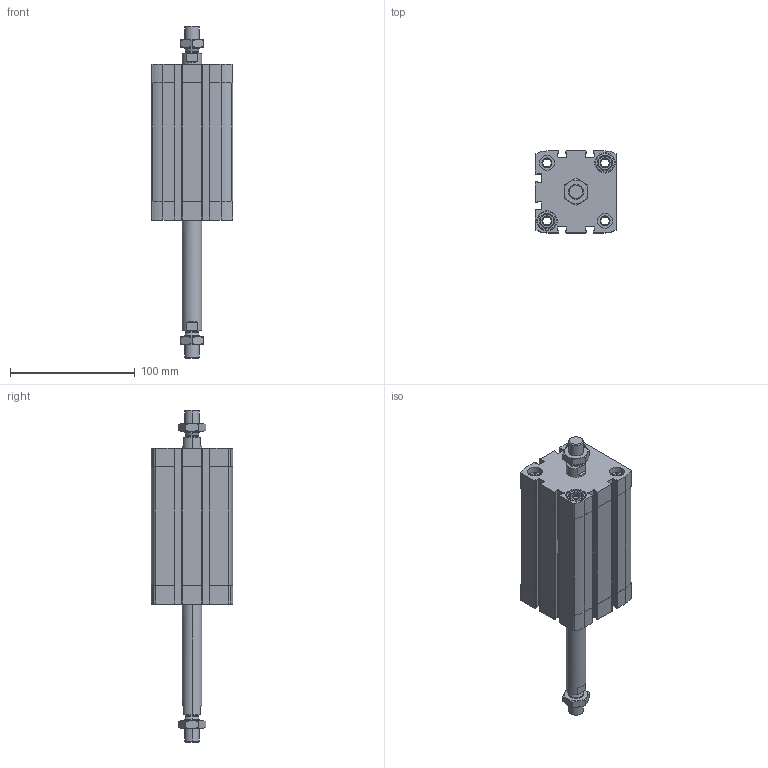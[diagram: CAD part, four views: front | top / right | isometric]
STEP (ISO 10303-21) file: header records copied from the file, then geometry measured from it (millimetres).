
FILE_DESCRIPTION (( 'STEP AP203' ), '1' );
FILE_NAME ('CCN50-80-P.STEP', '2020-06-22T18:59:01', ( '' ), ( '' ), 'SwSTEP 2.0', 'SolidWorks 2019', '' );
FILE_SCHEMA (( 'CONFIG_CONTROL_DESIGN' ));
Length unit declared in the file: millimetre
Products named in the file (1): CCN50-80-P
Bounding box: 65.5 x 65.5 x 266 mm (x, y, z)
Volume: 365123.9 mm3; surface area: 102462.7 mm2
Topology: 4 solids, 4 shells, 528 faces, 1392 edges, 904 vertices
Faces by surface type: plane 240, cylinder 220, cone 60, torus 8
Entity records: 17219 total; most frequent: CARTESIAN_POINT 3821, DIRECTION 2842, ORIENTED_EDGE 2784, EDGE_CURVE 1392, AXIS2_PLACEMENT_3D 1045, VERTEX_POINT 904, VECTOR 752, LINE 752
